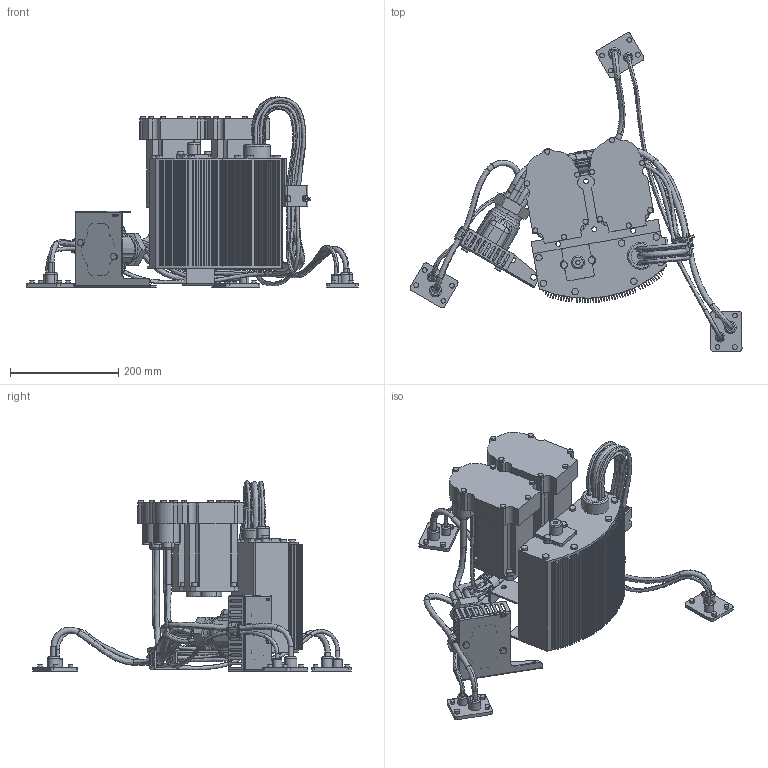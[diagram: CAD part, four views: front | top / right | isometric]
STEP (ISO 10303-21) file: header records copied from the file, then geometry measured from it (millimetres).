
FILE_DESCRIPTION (( 'STEP AP214' ), '1' );
FILE_NAME ('IRB365_1.5-1300_OmniCore_rev00_HARNESS_CAD.step', '2025-09-09T11:52:13', ( '' ), ( '' ), 'SwSTEP 2.0', 'SolidWorks 2024', '' );
FILE_SCHEMA (( 'AUTOMOTIVE_DESIGN' ));
Length unit declared in the file: millimetre
Products named in the file (1): IRB365_1.5-1300_OmniCore_rev00_HARNESS_CAD
Bounding box: 612.25 x 587.21 x 350.62 mm (x, y, z)
Volume: 8862412.6 mm3; surface area: 903471.3 mm2
Topology: 1 solids, 1 shells, 1699 faces, 4476 edges, 2852 vertices
Faces by surface type: plane 729, cylinder 589, bspline 227, torus 118, cone 30, sphere 6
Entity records: 107330 total; most frequent: CARTESIAN_POINT 47345, ORIENTED_EDGE 8936, DIRECTION 8286, EDGE_CURVE 4468, AXIS2_PLACEMENT_3D 3074, VERTEX_POINT 2852, LINE 2138, VECTOR 2138
